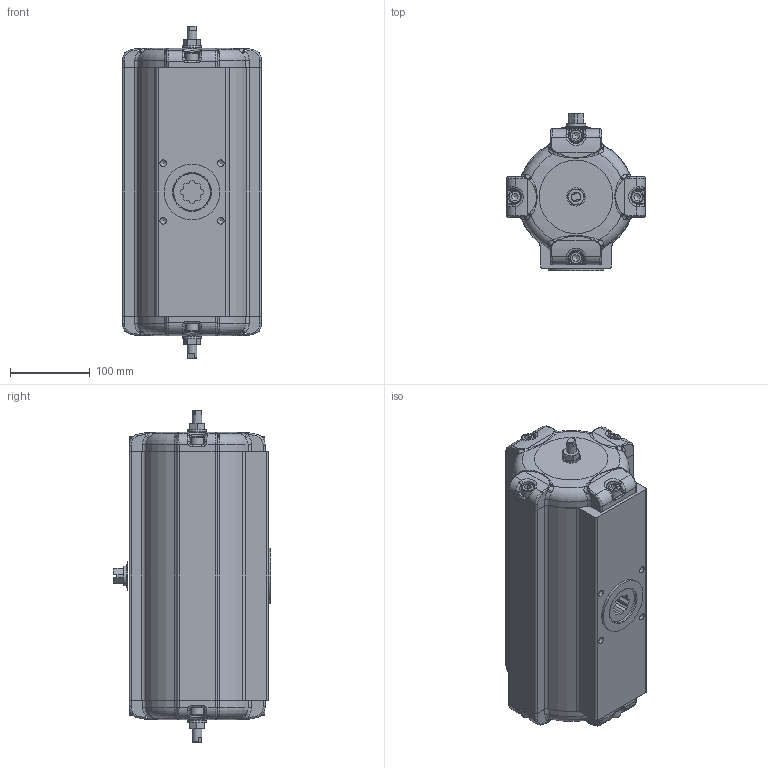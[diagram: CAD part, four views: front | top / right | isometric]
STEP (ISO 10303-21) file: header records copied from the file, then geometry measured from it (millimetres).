
FILE_DESCRIPTION((''),'2;1');
FILE_NAME('C:\Dokumente und Einstellungen\ko-p\Desktop\SAD_30-180°_BR03.stp','2011-02-03T09:57:44',('war'),(''),'Autodesk Inventor 2010','Autodesk Inventor 2010','');
FILE_SCHEMA(('AUTOMOTIVE_DESIGN { 1 0 10303 214 1 1 1 1 }'));
Length unit declared in the file: millimetre
Products named in the file (1): ENG-038393_Konturvereinfachung_1
Bounding box: 174 x 196.8 x 415.4 mm (x, y, z)
Surface area: 370082.9 mm2 (no closed solid volume)
Topology: 0 solids, 23 shells, 625 faces, 1871 edges, 1212 vertices
Faces by surface type: bspline 233, plane 218, cylinder 115, torus 33, cone 26
Full cylindrical faces by diameter (mm): 12 x2, 16 x8, 20 x1, 23 x2, 24.8 x1, 47 x1, 70 x1, 131 x1
Entity records: 40097 total; most frequent: CARTESIAN_POINT 24946, ORIENTED_EDGE 3060, DIRECTION 2471, EDGE_CURVE 1761, VERTEX_POINT 1168, AXIS2_PLACEMENT_3D 951, EDGE_LOOP 743, FACE_OUTER_BOUND 625
